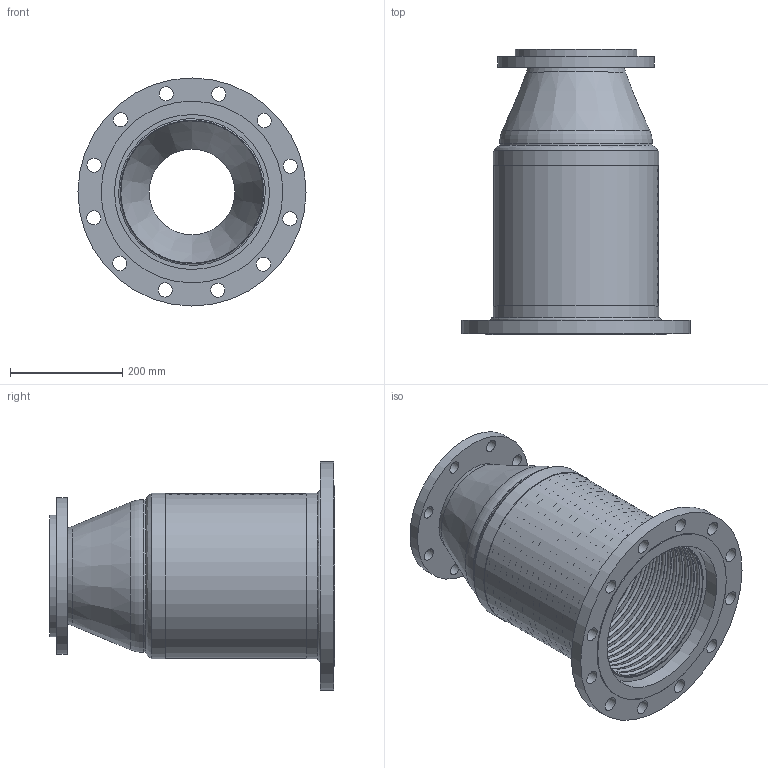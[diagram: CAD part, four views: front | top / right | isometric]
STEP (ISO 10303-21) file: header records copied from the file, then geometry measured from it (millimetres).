
FILE_DESCRIPTION((''),'2;1');
FILE_NAME('C:\2012_Work\Designs\RFFL\RFFL-10x6in.stp','2013-08-20T11:34:12',('KShiels'),(''),'Autodesk Inventor 2012','Autodesk Inventor 2012','');
FILE_SCHEMA(('AUTOMOTIVE_DESIGN { 1 0 10303 214 1 1 1 1 }'));
Length unit declared in the file: inch
Products named in the file (9): RFFL-10x6in; RFFL-10x6in_Welds; A-31006_10in_RFFL-BRAID; A-31006_10in_RFFL-BELLOWS; A-31006_10in_RFFL-BRAID-COLLAR; A-30988_10in-FIXED-FLANGE; A-30989_6in-FLOATING-FLANGE; A-30991_10x6in-REDUCER; A-30990_6in-WASHER
Assembly tree (9 placements, depth 2):
  RFFL-10x6in
    RFFL-10x6in_Welds
    A-31006_10in_RFFL-BRAID
    A-31006_10in_RFFL-BELLOWS
    A-31006_10in_RFFL-BRAID-COLLAR  x2
    A-30988_10in-FIXED-FLANGE
    A-30989_6in-FLOATING-FLANGE
    A-30991_10x6in-REDUCER
    A-30990_6in-WASHER
Bounding box: 406.39 x 508.21 x 406.39 mm (x, y, z)
Volume: 4128772.6 mm3; surface area: 2902096.7 mm2
Topology: 11 solids, 11 shells, 240 faces, 428 edges, 292 vertices
Faces by surface type: plane 104, torus 88, cylinder 40, cone 5, bspline 3
Full cylindrical faces by diameter (mm): 22.225 x8, 25.4 x12, 152.4 x1, 166.624 x1, 171.45 x3, 215.9 x1, 254 x1, 272.542 x2, 276.225 x1, 279.4 x1, 291.084 x1, 292.303 x3, 294.684 x3, 323.85 x1, 406.4 x1
Entity records: 6213 total; most frequent: CARTESIAN_POINT 1630, DIRECTION 1002, ORIENTED_EDGE 530, EDGE_LOOP 509, AXIS2_PLACEMENT_3D 501, FACE_BOUND 273, EDGE_CURVE 265, VERTEX_POINT 262
